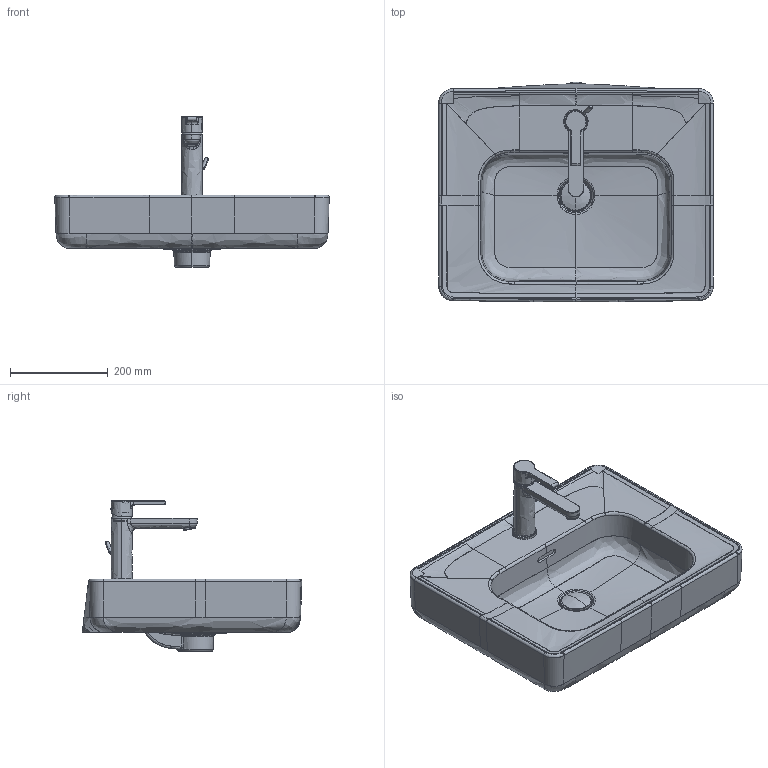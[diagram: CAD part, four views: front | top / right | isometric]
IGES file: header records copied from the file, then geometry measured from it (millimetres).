
Global section: file name: D:\01_Planungsdaten\Keramik\Soleil_by_Starck\237856\3D\237856.igs; native system: Rhinoceros ( Sep 13 2016 ); preprocessor: Trout Lake IGES 012 Sep 13 2016; date: 220719.092941; units: millimetre
Bounding box: 560.64 x 448.48 x 307.5 mm (x, y, z)
Surface area: 938033.9 mm2 (no closed solid volume)
Topology: 0 solids, 0 shells, 780 faces, 7674 edges, 7658 vertices
Faces by surface type: bspline 780
